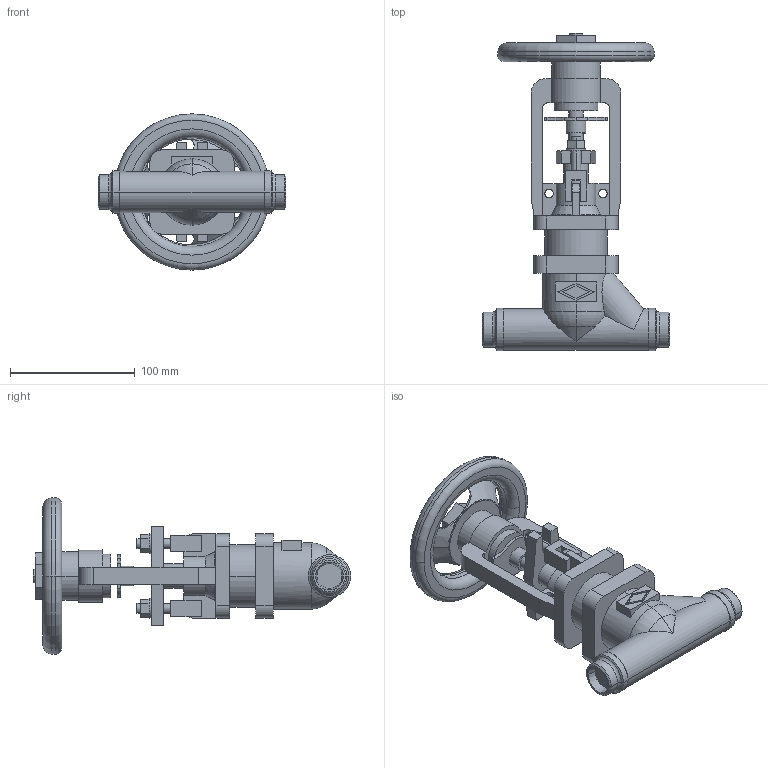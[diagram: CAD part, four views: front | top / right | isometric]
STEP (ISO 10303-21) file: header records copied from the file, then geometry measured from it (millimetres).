
FILE_DESCRIPTION(('OneSpaceDesigner STEP Export'),'2;1');
FILE_NAME('c000004303.stp','2010-05-06T 8:55:35',(''),(''),'OneSpace Designer STEP processor for AP214 (Solid Model)','OneSpace Modeling 15.50B 03-Nov-2007 (C) CoCreate Software GmbH','');
FILE_SCHEMA(('AUTOMOTIVE_DESIGN { 1 0 10303 214 1 1 1 1 }'));
Length unit declared in the file: millimetre
Products named in the file (1): 1
Bounding box: 150 x 254 x 125 mm (x, y, z)
Volume: 625359 mm3; surface area: 112539 mm2
Topology: 1 solids, 1 shells, 278 faces, 732 edges, 477 vertices
Faces by surface type: plane 138, cylinder 92, cone 26, torus 22
Entity records: 10827 total; most frequent: CARTESIAN_POINT 2029, ORIENTED_EDGE 1464, DIRECTION 1242, EDGE_CURVE 732, VERTEX_POINT 477, AXIS2_PLACEMENT_3D 417, VECTOR 408, LINE 408
